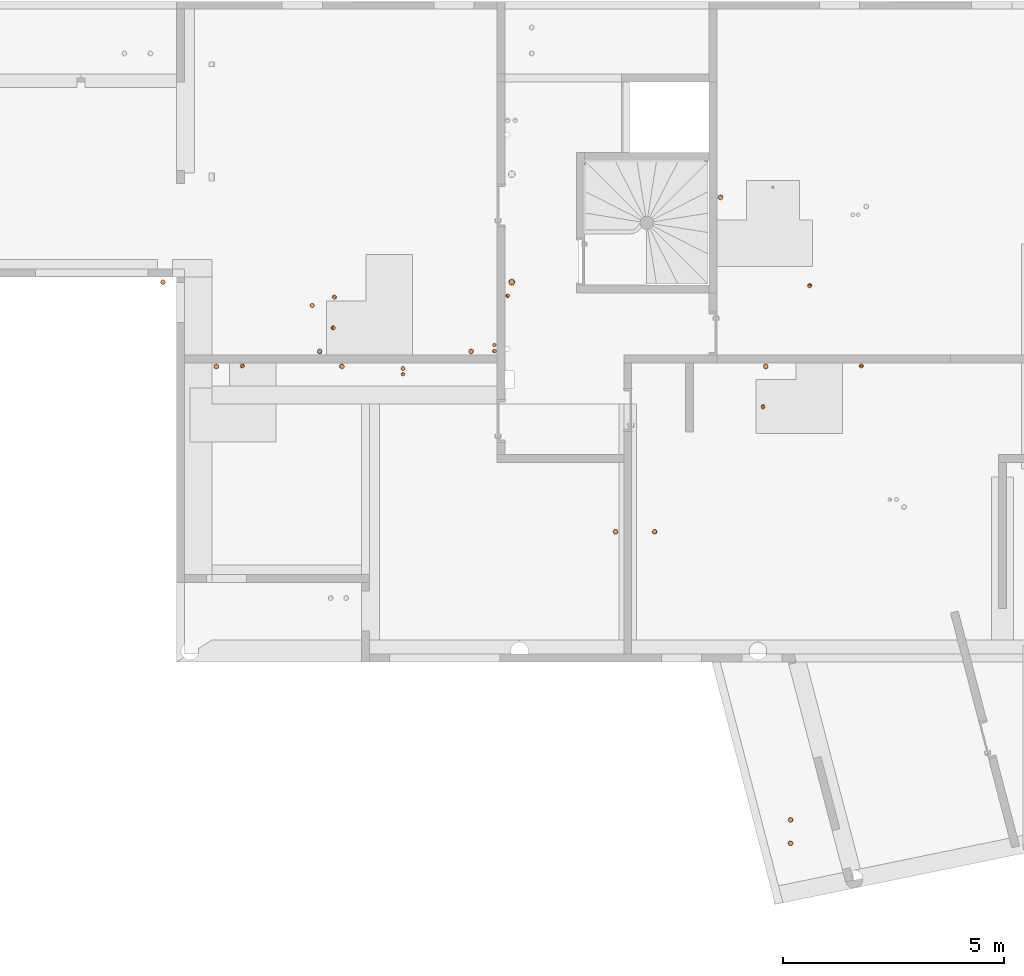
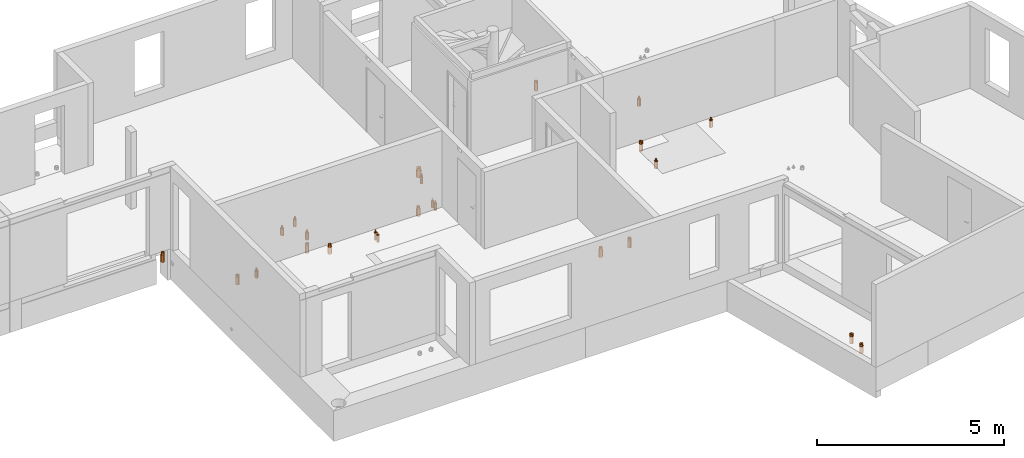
# One storey, part 32 of 34: 24 proxies.
"""IFC2X3 building model written with IfcOpenShell, lengths in centimetres."""

from ifc_helpers import new_model, entity, si_unit, converted_unit, derived_unit, direction, frame, frame_2d, origin, place, context, subcontext, project, spatial, circle, hollow_circle, extrude, source, transform, mapped, material, type_object, type_shapes, element, save


model = new_model("IFC2X3")

# Units and contexts
model_context = context("Model", 3, precision=0.001, world=origin(), true_north=direction((6.12303176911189e-17, 1.0)))
body_context = subcontext(model_context, "Body", "Model", "MODEL_VIEW")
ifc_project = project(units=[si_unit("LENGTHUNIT", "METRE", prefix="CENTI"), si_unit("AREAUNIT", "SQUARE_METRE"), si_unit("VOLUMEUNIT", "CUBIC_METRE"), converted_unit("PLANEANGLEUNIT", "DEGREE", entity("IfcRatioMeasure", 0.0174532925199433), si_unit("PLANEANGLEUNIT", "RADIAN"), dimensions=[0, 0, 0, 0, 0, 0, 0]), si_unit("MASSUNIT", "GRAM", prefix="KILO"), derived_unit("MASSDENSITYUNIT", [(si_unit("MASSUNIT", "GRAM", prefix="KILO"), 1), (si_unit("LENGTHUNIT", "METRE"), -3)]), si_unit("TIMEUNIT", "SECOND"), si_unit("FREQUENCYUNIT", "HERTZ"), si_unit("THERMODYNAMICTEMPERATUREUNIT", "DEGREE_CELSIUS"), derived_unit("THERMALTRANSMITTANCEUNIT", [(si_unit("MASSUNIT", "GRAM", prefix="KILO"), 1), (si_unit("THERMODYNAMICTEMPERATUREUNIT", "KELVIN"), -1), (si_unit("TIMEUNIT", "SECOND"), -3)]), derived_unit("VOLUMETRICFLOWRATEUNIT", [(si_unit("LENGTHUNIT", "METRE"), 3), (si_unit("TIMEUNIT", "SECOND"), -1)]), si_unit("ELECTRICCURRENTUNIT", "AMPERE"), si_unit("ELECTRICVOLTAGEUNIT", "VOLT"), si_unit("POWERUNIT", "WATT"), si_unit("FORCEUNIT", "NEWTON"), si_unit("ILLUMINANCEUNIT", "LUX"), si_unit("LUMINOUSFLUXUNIT", "LUMEN"), si_unit("LUMINOUSINTENSITYUNIT", "CANDELA"), derived_unit("USERDEFINED", [(si_unit("MASSUNIT", "GRAM", prefix="KILO"), -1), (si_unit("LENGTHUNIT", "METRE"), -2), (si_unit("TIMEUNIT", "SECOND"), 3), (si_unit("LUMINOUSFLUXUNIT", "LUMEN"), 1)]), derived_unit("LINEARVELOCITYUNIT", [(si_unit("LENGTHUNIT", "METRE"), 1), (si_unit("TIMEUNIT", "SECOND"), -1)]), si_unit("PRESSUREUNIT", "PASCAL"), derived_unit("USERDEFINED", [(si_unit("LENGTHUNIT", "METRE"), -2), (si_unit("MASSUNIT", "GRAM", prefix="KILO"), 1), (si_unit("TIMEUNIT", "SECOND"), -2)])], contexts=[model_context])

# Site, building, storey
site_placement = place(None, origin())
site = spatial("IfcSite", under=ifc_project, at=site_placement, Name="Default", CompositionType="ELEMENT")
building_placement = place(site_placement, origin())
building = spatial("IfcBuilding", under=site, at=building_placement, Name="CAGE 03", CompositionType="ELEMENT")
storey_placement = place(building_placement, frame((0.0, 0.0, 340.0)))
storey = spatial("IfcBuildingStorey", under=building, at=storey_placement, Name="R+1", CompositionType="ELEMENT", Elevation=340.0)

# Proxies
ifc_material_1 = material(Name="Conduit EU")
building_element_proxy_type_1 = type_object("IfcBuildingElementProxyType", Name="EU 100", PredefinedType="NOTDEFINED", material=ifc_material_1)
shared_shape_1 = source(origin(), body_context, "Body", "SweptSolid", [
    extrude(circle(Radius=5.5, at=frame_2d((0.0, -8.88549515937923e-15), x_axis=(1.0, 0.0))), frame((0.0, 0.0, -23.0)), (0.0, 0.0, 1.0), 23.0),
    extrude(hollow_circle(Radius=5.0, WallThickness=0.25, at=frame_2d((0.0, -8.07772287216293e-15), x_axis=(1.0, 0.0))), frame((0.0, 0.0, -23.0)), (0.0, 0.0, 1.0), 30.5),
])
type_shapes(building_element_proxy_type_1, [shared_shape_1])
for number, where, name in (
    (1, (10516.3663623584, 4849.41389855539, -4.46999646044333e-07), "Galette - Résa - PVC:EU 100"),
    (2, (10619.0920507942, 4466.41724861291, -4.46999646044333e-07), "Galette - Résa - PVC:EU 100"),
):
    element("IfcBuildingElementProxy", number, at=place(storey_placement, frame(where)), inside=storey, type_object=building_element_proxy_type_1, material=ifc_material_1, Name=name, ObjectType="EU 100", context=body_context, shape_type="MappedRepresentation", body=[
        mapped(shared_shape_1, transform((0.0, 0.0, 0.0), scale=1.0)),
    ])
proxy_1_placement = place(storey_placement, frame((10367.2535310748, 4091.73474148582, -4.46999646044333e-07), z_axis=(0.0, 0.0, 1.0), x_axis=(-1.0, 0.0, 0.0)))
element("IfcBuildingElementProxy", 3, at=proxy_1_placement, inside=storey, type_object=building_element_proxy_type_1, material=ifc_material_1, Name="Galette - Résa - PVC:EU 100", ObjectType="EU 100", context=body_context, shape_type="MappedRepresentation", body=[
    mapped(shared_shape_1, transform((0.0, 0.0, 0.0), scale=1.0)),
])
for number, where, name in (
    (4, (10278.5247964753, 4091.78406510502, -4.46999646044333e-07), "Galette - Résa - PVC:EU 100"),
    (5, (9374.03557328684, 4466.24730972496, -4.46999646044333e-07), "Galette - Résa - PVC:EU 100"),
    (6, (9658.62199350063, 4466.40734188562, -4.46999646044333e-07), "Galette - Résa - PVC:EU 100"),
    (7, (9608.48707512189, 4500.39037908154, -4.46999646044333e-07), "Galette - Résa - PVC:EU 100"),
    (8, (9951.51241983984, 4500.37527061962, -4.46999646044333e-07), "Galette - Résa - PVC:EU 100"),
):
    element("IfcBuildingElementProxy", number, at=place(storey_placement, frame(where)), inside=storey, type_object=building_element_proxy_type_1, material=ifc_material_1, Name=name, ObjectType="EU 100", context=body_context, shape_type="MappedRepresentation", body=[
        mapped(shared_shape_1, transform((0.0, 0.0, 0.0), scale=1.0)),
    ])
building_element_proxy_type_2 = type_object("IfcBuildingElementProxyType", Name="EU 50", PredefinedType="NOTDEFINED", material=ifc_material_1)
shared_shape_2 = source(origin(), body_context, "Body", "SweptSolid", [
    extrude(circle(Radius=5.0, at=frame_2d((0.0, -8.07772287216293e-15), x_axis=(1.0, 0.0))), frame((0.0, 0.0, -23.0)), (0.0, 0.0, 1.0), 23.0),
    extrude(hollow_circle(Radius=2.5, WallThickness=0.25, at=frame_2d((0.0, -4.03886143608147e-15), x_axis=(1.0, 0.0))), frame((0.0, 0.0, -23.0)), (0.0, 0.0, 1.0), 30.5),
])
type_shapes(building_element_proxy_type_2, [shared_shape_2])
for number, where, name in (
    (9, (10612.698822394, 4374.9189973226, -4.46999646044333e-07), "Galette - Résa - PVC:EU 50"),
    (10, (10835.3062513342, 4467.37888744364, -4.46999646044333e-07), "Galette - Résa - PVC:EU 50"),
    (11, (9638.86664146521, 4553.90431516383, -4.46999646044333e-07), "Galette - Résa - PVC:EU 50"),
    (12, (10718.5241668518, 4649.39717575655, -4.46999646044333e-07), "Galette - Résa - PVC:EU 50"),
    (13, (9433.2709999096, 4467.46182060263, -4.46999646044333e-07), "Galette - Résa - PVC:EU 50"),
):
    element("IfcBuildingElementProxy", number, at=place(storey_placement, frame(where)), inside=storey, type_object=building_element_proxy_type_2, material=ifc_material_1, Name=name, ObjectType="EU 50", context=body_context, shape_type="MappedRepresentation", body=[
        mapped(shared_shape_2, transform((0.0, 0.0, 0.0), scale=1.0)),
    ])
proxy_2_placement = place(storey_placement, frame((9641.7342298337, 4623.41037455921, -4.46999646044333e-07), z_axis=(0.0, 0.0, 1.0), x_axis=(0.0, 1.0, 0.0)))
element("IfcBuildingElementProxy", 14, at=proxy_2_placement, inside=storey, type_object=building_element_proxy_type_2, material=ifc_material_1, Name="Galette - Résa - PVC:EU 50", ObjectType="EU 50", context=body_context, shape_type="MappedRepresentation", body=[
    mapped(shared_shape_2, transform((0.0, 0.0, 0.0), scale=1.0)),
])
proxy_3_placement = place(storey_placement, frame((9591.33610488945, 4604.40431516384, -4.46999646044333e-07)))
element("IfcBuildingElementProxy", 15, at=proxy_3_placement, inside=storey, type_object=building_element_proxy_type_2, material=ifc_material_1, Name="Galette - Résa - PVC:EU 50", ObjectType="EU 50", context=body_context, shape_type="MappedRepresentation", body=[
    mapped(shared_shape_2, transform((0.0, 0.0, 0.0), scale=1.0)),
])
ifc_material_2 = material(Name="Conduit EP")
building_element_proxy_type_3 = type_object("IfcBuildingElementProxyType", Name="EP 100", PredefinedType="NOTDEFINED", material=ifc_material_2)
shared_shape_3 = source(origin(), body_context, "Body", "SweptSolid", [
    extrude(circle(Radius=5.5, at=frame_2d((0.0, -8.88549515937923e-15), x_axis=(1.0, 0.0))), frame((0.0, 0.0, -23.0)), (0.0, 0.0, 1.0), 23.0),
    extrude(hollow_circle(Radius=5.0, WallThickness=0.25, at=frame_2d((0.0, -8.07772287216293e-15), x_axis=(1.0, 0.0))), frame((0.0, 0.0, -23.0)), (0.0, 0.0, 1.0), 30.5),
])
type_shapes(building_element_proxy_type_3, [shared_shape_3])
proxy_4_placement = place(storey_placement, frame((9253.3714967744, 4657.37087061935, -4.46999646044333e-07)))
element("IfcBuildingElementProxy", 16, at=proxy_4_placement, inside=storey, type_object=building_element_proxy_type_3, material=ifc_material_2, Name="Galette - Résa - PVC:EP 100", ObjectType="EP 100", context=body_context, shape_type="MappedRepresentation", body=[
    mapped(shared_shape_3, transform((0.0, 0.0, 0.0), scale=1.0)),
])
for number, where, z_axis, x_axis, name in (
    (17, (10675.2789665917, 3438.90862123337, -25.0), (0.0, 0.0, 1.0), (0.974370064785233, 0.224951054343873, 0.0), "Galette - Résa - PVC:EP 100"),
    (18, (10675.2789665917, 3386.02755894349, -25.0), (0.0, 0.0, 1.0), (-0.241921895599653, 0.970295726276, 0.0), "Galette - Résa - PVC:EP 100"),
):
    element("IfcBuildingElementProxy", number, at=place(storey_placement, frame(where, z_axis=z_axis, x_axis=x_axis)), inside=storey, type_object=building_element_proxy_type_3, material=ifc_material_2, Name=name, ObjectType="EP 100", context=body_context, shape_type="MappedRepresentation", body=[
        mapped(shared_shape_3, transform((0.0, 0.0, 0.0), scale=1.0)),
    ])
building_element_proxy_type_4 = type_object("IfcBuildingElementProxyType", Name="EP 125", PredefinedType="NOTDEFINED", material=ifc_material_2)
shared_shape_4 = source(origin(), body_context, "Body", "SweptSolid", [
    extrude(circle(Radius=7.0, at=frame_2d((0.0, -1.13088120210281e-14), x_axis=(1.0, 0.0))), frame((0.0, 0.0, -23.0)), (0.0, 0.0, 1.0), 23.0),
    extrude(hollow_circle(Radius=6.25, WallThickness=0.25, at=frame_2d((0.0, -1.00971535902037e-14), x_axis=(1.0, 0.0))), frame((0.0, 0.0, -23.0)), (0.0, 0.0, 1.0), 30.5),
])
type_shapes(building_element_proxy_type_4, [shared_shape_4])
proxy_5_placement = place(storey_placement, frame((10043.5548418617, 4657.41074661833, -4.46999646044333e-07)))
element("IfcBuildingElementProxy", 19, at=proxy_5_placement, inside=storey, type_object=building_element_proxy_type_4, material=ifc_material_2, Name="Galette - Résa - PVC:EP 125", ObjectType="EP 125", context=body_context, shape_type="MappedRepresentation", body=[
    mapped(shared_shape_4, transform((0.0, 0.0, 0.0), scale=1.0)),
])
ifc_material_3 = material(Name="Circuit EF")
building_element_proxy_type_5 = type_object("IfcBuildingElementProxyType", Name="EF 40", PredefinedType="NOTDEFINED", material=ifc_material_3)
shared_shape_5 = source(origin(), body_context, "Body", "SweptSolid", [
    extrude(circle(Radius=4.5, at=frame_2d((0.0, -7.26995058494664e-15), x_axis=(1.0, 0.0))), frame((0.0, 0.0, -23.0)), (0.0, 0.0, 1.0), 23.0),
    extrude(hollow_circle(Radius=2.2, WallThickness=0.449999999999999, at=frame_2d((0.0, -3.55419806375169e-15), x_axis=(1.0, 0.0))), frame((0.0, 0.0, -23.0)), (0.0, 0.0, 1.0), 30.5),
])
type_shapes(building_element_proxy_type_5, [shared_shape_5])
proxy_6_placement = place(storey_placement, frame((10034.3657978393, 4626.41657255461, -4.46999646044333e-07)))
element("IfcBuildingElementProxy", 20, at=proxy_6_placement, inside=storey, type_object=building_element_proxy_type_5, material=ifc_material_3, Name="Galette - Résa - PVC:EF 40", ObjectType="EF 40", context=body_context, shape_type="MappedRepresentation", body=[
    mapped(shared_shape_5, transform((0.0, 0.0, 0.0), scale=1.0)),
])
ifc_material_4 = material(Name="Circuit ECS Aller")
building_element_proxy_type_6 = type_object("IfcBuildingElementProxyType", Name="ECS Aller 32", PredefinedType="NOTDEFINED", material=ifc_material_4)
shared_shape_6 = source(origin(), body_context, "Body", "SweptSolid", [
    extrude(circle(Radius=4.5, at=frame_2d((0.0, -7.26995058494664e-15), x_axis=(1.0, 0.0))), frame((0.0, 0.0, -23.0)), (0.0, 0.0, 1.0), 23.0),
    extrude(hollow_circle(Radius=1.6, WallThickness=0.05, at=frame_2d((0.0, -2.58487131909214e-15), x_axis=(1.0, 0.0))), frame((0.0, 0.0, -23.0)), (0.0, 0.0, 1.0), 30.5),
])
type_shapes(building_element_proxy_type_6, [shared_shape_6])
for number, where, name in (
    (21, (9796.97191642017, 4461.65360229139, -4.46999646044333e-07), "Galette - Résa - PVC:ECS Aller 32"),
    (22, (10004.3066082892, 4500.9132592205, -4.46999646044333e-07), "Galette - Résa - PVC:ECS Aller 32"),
):
    element("IfcBuildingElementProxy", number, at=place(storey_placement, frame(where)), inside=storey, type_object=building_element_proxy_type_6, material=ifc_material_4, Name=name, ObjectType="ECS Aller 32", context=body_context, shape_type="MappedRepresentation", body=[
        mapped(shared_shape_6, transform((0.0, 0.0, 0.0), scale=1.0)),
    ])
ifc_material_5 = material(Name="Circuit ECS Retour")
building_element_proxy_type_7 = type_object("IfcBuildingElementProxyType", Name="ECS Retour 20", PredefinedType="NOTDEFINED", material=ifc_material_5)
shared_shape_7 = source(origin(), body_context, "Body", "SweptSolid", [
    extrude(circle(Radius=4.0, at=frame_2d((0.0, -6.46217829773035e-15), x_axis=(1.0, 0.0))), frame((0.0, 0.0, -23.0)), (0.0, 0.0, 1.0), 23.0),
    extrude(hollow_circle(Radius=1.0, WallThickness=0.0500000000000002, at=frame_2d((0.0, -1.61554457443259e-15), x_axis=(1.0, 0.0))), frame((0.0, 0.0, -23.0)), (0.0, 0.0, 1.0), 30.5),
])
type_shapes(building_element_proxy_type_7, [shared_shape_7])
for number, where, name in (
    (23, (9796.97191642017, 4448.90360229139, -4.46999646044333e-07), "Galette - Résa - PVC:ECS Retour 20"),
    (24, (10004.3066082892, 4514.90367083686, -4.46999646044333e-07), "Galette - Résa - PVC:ECS Retour 20"),
):
    element("IfcBuildingElementProxy", number, at=place(storey_placement, frame(where)), inside=storey, type_object=building_element_proxy_type_7, material=ifc_material_5, Name=name, ObjectType="ECS Retour 20", context=body_context, shape_type="MappedRepresentation", body=[
        mapped(shared_shape_7, transform((0.0, 0.0, 0.0), scale=1.0)),
    ])

save(model, "model.ifc")
